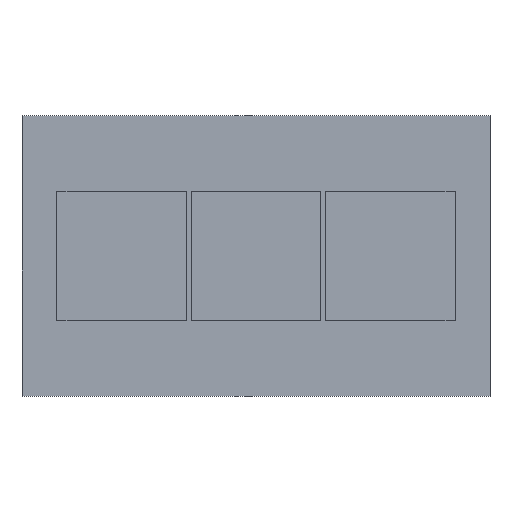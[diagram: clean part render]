
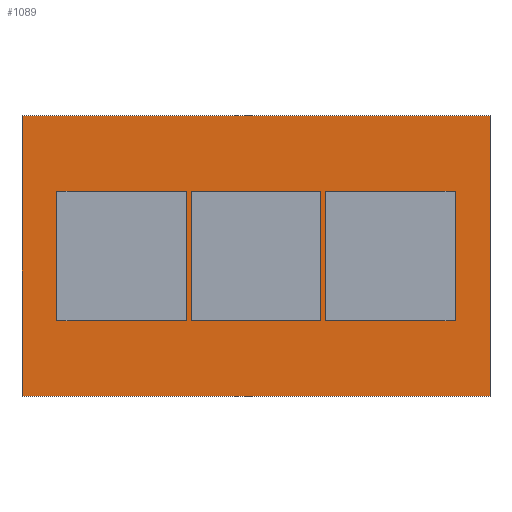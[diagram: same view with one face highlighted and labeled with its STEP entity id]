
A CAD part, top view. The second image highlights one B-rep face of the part: STEP entity #1089.
In plain terms, the highlighted planar face has unit normal (0, 0, 1).
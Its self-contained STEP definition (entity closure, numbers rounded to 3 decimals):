
#14 = VERTEX_POINT ( 'NONE', #994 ) ;
#19 = EDGE_CURVE ( 'NONE', #1437, #2033, #690, .T. ) ;
#68 = ORIENTED_EDGE ( 'NONE', *, *, #1532, .F. ) ;
#87 = VECTOR ( 'NONE', #1978, 1000. ) ;
#95 = DIRECTION ( 'NONE',  ( -1., 0., 0. ) ) ;
#108 = DIRECTION ( 'NONE',  ( 0., 1., 0. ) ) ;
#123 = CARTESIAN_POINT ( 'NONE',  ( 3.75, -2.25, 0. ) ) ;
#135 = CARTESIAN_POINT ( 'NONE',  ( -1.04, -1.04, 0. ) ) ;
#139 = ORIENTED_EDGE ( 'NONE', *, *, #451, .F. ) ;
#205 = VERTEX_POINT ( 'NONE', #1484 ) ;
#206 = EDGE_LOOP ( 'NONE', ( #654, #964, #1196, #1624 ) ) ;
#222 = EDGE_LOOP ( 'NONE', ( #814, #1893, #606, #1518 ) ) ;
#231 = VERTEX_POINT ( 'NONE', #1275 ) ;
#233 = LINE ( 'NONE', #123, #312 ) ;
#246 = CARTESIAN_POINT ( 'NONE',  ( -1.11, 1.04, 0. ) ) ;
#248 = CARTESIAN_POINT ( 'NONE',  ( -1.04, 1.04, 0. ) ) ;
#277 = CARTESIAN_POINT ( 'NONE',  ( 1.04, -1.04, 0. ) ) ;
#298 = VECTOR ( 'NONE', #1302, 1000. ) ;
#312 = VECTOR ( 'NONE', #1857, 1000. ) ;
#325 = LINE ( 'NONE', #1897, #87 ) ;
#360 = DIRECTION ( 'NONE',  ( 1., 0., 0. ) ) ;
#399 = LINE ( 'NONE', #1068, #1801 ) ;
#421 = CARTESIAN_POINT ( 'NONE',  ( 1.11, -1.04, 0. ) ) ;
#449 = VERTEX_POINT ( 'NONE', #1867 ) ;
#451 = EDGE_CURVE ( 'NONE', #1447, #957, #723, .T. ) ;
#487 = ORIENTED_EDGE ( 'NONE', *, *, #1609, .F. ) ;
#524 = DIRECTION ( 'NONE',  ( 0., -1., 0. ) ) ;
#537 = VECTOR ( 'NONE', #524, 1000. ) ;
#568 = FACE_BOUND ( 'NONE', #1765, .T. ) ;
#570 = VECTOR ( 'NONE', #648, 1000. ) ;
#573 = ORIENTED_EDGE ( 'NONE', *, *, #1852, .F. ) ;
#580 = CARTESIAN_POINT ( 'NONE',  ( 1.11, 1.04, 0. ) ) ;
#595 = LINE ( 'NONE', #904, #948 ) ;
#600 = LINE ( 'NONE', #1144, #298 ) ;
#606 = ORIENTED_EDGE ( 'NONE', *, *, #765, .F. ) ;
#609 = DIRECTION ( 'NONE',  ( 0., 1., 0. ) ) ;
#622 = PLANE ( 'NONE',  #1589 ) ;
#632 = CARTESIAN_POINT ( 'NONE',  ( 3.75, -2.25, 0. ) ) ;
#633 = VERTEX_POINT ( 'NONE', #1543 ) ;
#637 = CARTESIAN_POINT ( 'NONE',  ( -3.19, -1.04, 0. ) ) ;
#648 = DIRECTION ( 'NONE',  ( 0., -1., 0. ) ) ;
#654 = ORIENTED_EDGE ( 'NONE', *, *, #808, .F. ) ;
#690 = LINE ( 'NONE', #1312, #823 ) ;
#701 = VECTOR ( 'NONE', #747, 1000. ) ;
#703 = VERTEX_POINT ( 'NONE', #822 ) ;
#706 = CARTESIAN_POINT ( 'NONE',  ( -1.04, 1.04, 0. ) ) ;
#723 = LINE ( 'NONE', #1393, #1711 ) ;
#747 = DIRECTION ( 'NONE',  ( 1., 0., 0. ) ) ;
#765 = EDGE_CURVE ( 'NONE', #2033, #231, #1631, .T. ) ;
#779 = VECTOR ( 'NONE', #1058, 1000. ) ;
#796 = DIRECTION ( 'NONE',  ( -1., 0., 0. ) ) ;
#808 = EDGE_CURVE ( 'NONE', #926, #1593, #325, .T. ) ;
#812 = EDGE_CURVE ( 'NONE', #1132, #1437, #600, .T. ) ;
#814 = ORIENTED_EDGE ( 'NONE', *, *, #812, .F. ) ;
#822 = CARTESIAN_POINT ( 'NONE',  ( -1.11, -1.04, 0. ) ) ;
#823 = VECTOR ( 'NONE', #360, 1000. ) ;
#904 = CARTESIAN_POINT ( 'NONE',  ( -1.11, -1.04, 0. ) ) ;
#908 = DIRECTION ( 'NONE',  ( 0., 1., 0. ) ) ;
#910 = CARTESIAN_POINT ( 'NONE',  ( 1.11, -1.04, 0. ) ) ;
#926 = VERTEX_POINT ( 'NONE', #246 ) ;
#937 = CARTESIAN_POINT ( 'NONE',  ( 0., 0., 0. ) ) ;
#948 = VECTOR ( 'NONE', #108, 1000. ) ;
#957 = VERTEX_POINT ( 'NONE', #1222 ) ;
#963 = CARTESIAN_POINT ( 'NONE',  ( 3.75, 2.25, 0. ) ) ;
#964 = ORIENTED_EDGE ( 'NONE', *, *, #1002, .F. ) ;
#966 = LINE ( 'NONE', #1315, #537 ) ;
#977 = VERTEX_POINT ( 'NONE', #580 ) ;
#985 = EDGE_CURVE ( 'NONE', #633, #449, #1507, .T. ) ;
#994 = CARTESIAN_POINT ( 'NONE',  ( 1.04, 1.04, 0. ) ) ;
#996 = ORIENTED_EDGE ( 'NONE', *, *, #1551, .F. ) ;
#1002 = EDGE_CURVE ( 'NONE', #703, #926, #595, .T. ) ;
#1041 = FACE_BOUND ( 'NONE', #1301, .T. ) ;
#1058 = DIRECTION ( 'NONE',  ( 1., 0., 0. ) ) ;
#1060 = VECTOR ( 'NONE', #908, 1000. ) ;
#1068 = CARTESIAN_POINT ( 'NONE',  ( 3.19, -1.04, 0. ) ) ;
#1076 = CARTESIAN_POINT ( 'NONE',  ( -3.19, 1.04, 0. ) ) ;
#1089 = ADVANCED_FACE ( 'NONE', ( #1458, #568, #1635, #1041 ), #622, .T. ) ;
#1122 = EDGE_CURVE ( 'NONE', #1594, #977, #1430, .T. ) ;
#1130 = ORIENTED_EDGE ( 'NONE', *, *, #1122, .F. ) ;
#1132 = VERTEX_POINT ( 'NONE', #1743 ) ;
#1144 = CARTESIAN_POINT ( 'NONE',  ( -3.75, -2.25, 0. ) ) ;
#1156 = VECTOR ( 'NONE', #1690, 1000. ) ;
#1184 = LINE ( 'NONE', #706, #1974 ) ;
#1196 = ORIENTED_EDGE ( 'NONE', *, *, #1956, .F. ) ;
#1201 = LINE ( 'NONE', #910, #1156 ) ;
#1222 = CARTESIAN_POINT ( 'NONE',  ( -1.04, -1.04, 0. ) ) ;
#1228 = CARTESIAN_POINT ( 'NONE',  ( -3.19, -1.04, 0. ) ) ;
#1237 = CARTESIAN_POINT ( 'NONE',  ( 3.19, 1.04, 0. ) ) ;
#1253 = CARTESIAN_POINT ( 'NONE',  ( 1.11, 1.04, 0. ) ) ;
#1275 = CARTESIAN_POINT ( 'NONE',  ( 3.75, -2.25, 0. ) ) ;
#1283 = VECTOR ( 'NONE', #1398, 1000. ) ;
#1291 = EDGE_CURVE ( 'NONE', #1593, #1640, #966, .T. ) ;
#1301 = EDGE_LOOP ( 'NONE', ( #1130, #68, #1303, #573 ) ) ;
#1302 = DIRECTION ( 'NONE',  ( 0., 1., 0. ) ) ;
#1303 = ORIENTED_EDGE ( 'NONE', *, *, #985, .F. ) ;
#1312 = CARTESIAN_POINT ( 'NONE',  ( 3.75, 2.25, 0. ) ) ;
#1315 = CARTESIAN_POINT ( 'NONE',  ( -3.19, -1.04, 0. ) ) ;
#1327 = LINE ( 'NONE', #277, #1060 ) ;
#1380 = LINE ( 'NONE', #135, #701 ) ;
#1393 = CARTESIAN_POINT ( 'NONE',  ( -1.04, -1.04, 0. ) ) ;
#1396 = DIRECTION ( 'NONE',  ( 1., 0., 0. ) ) ;
#1398 = DIRECTION ( 'NONE',  ( 1., 0., 0. ) ) ;
#1420 = DIRECTION ( 'NONE',  ( 0., 0., 1. ) ) ;
#1430 = LINE ( 'NONE', #1253, #1754 ) ;
#1437 = VERTEX_POINT ( 'NONE', #1976 ) ;
#1447 = VERTEX_POINT ( 'NONE', #248 ) ;
#1458 = FACE_OUTER_BOUND ( 'NONE', #222, .T. ) ;
#1470 = EDGE_CURVE ( 'NONE', #14, #1447, #1184, .T. ) ;
#1484 = CARTESIAN_POINT ( 'NONE',  ( 1.04, -1.04, 0. ) ) ;
#1507 = LINE ( 'NONE', #421, #779 ) ;
#1518 = ORIENTED_EDGE ( 'NONE', *, *, #19, .F. ) ;
#1532 = EDGE_CURVE ( 'NONE', #449, #1594, #399, .T. ) ;
#1543 = CARTESIAN_POINT ( 'NONE',  ( 1.11, -1.04, 0. ) ) ;
#1551 = EDGE_CURVE ( 'NONE', #957, #205, #1380, .T. ) ;
#1559 = DIRECTION ( 'NONE',  ( 0., -1., 0. ) ) ;
#1589 = AXIS2_PLACEMENT_3D ( 'NONE', #937, #1420, #1396 ) ;
#1593 = VERTEX_POINT ( 'NONE', #1076 ) ;
#1594 = VERTEX_POINT ( 'NONE', #1237 ) ;
#1609 = EDGE_CURVE ( 'NONE', #205, #14, #1327, .T. ) ;
#1624 = ORIENTED_EDGE ( 'NONE', *, *, #1291, .F. ) ;
#1631 = LINE ( 'NONE', #632, #570 ) ;
#1635 = FACE_BOUND ( 'NONE', #206, .T. ) ;
#1640 = VERTEX_POINT ( 'NONE', #1228 ) ;
#1690 = DIRECTION ( 'NONE',  ( 0., -1., 0. ) ) ;
#1707 = ORIENTED_EDGE ( 'NONE', *, *, #1470, .F. ) ;
#1711 = VECTOR ( 'NONE', #1559, 1000. ) ;
#1743 = CARTESIAN_POINT ( 'NONE',  ( -3.75, -2.25, 0. ) ) ;
#1754 = VECTOR ( 'NONE', #796, 1000. ) ;
#1765 = EDGE_LOOP ( 'NONE', ( #487, #996, #139, #1707 ) ) ;
#1772 = LINE ( 'NONE', #637, #1283 ) ;
#1801 = VECTOR ( 'NONE', #609, 1000. ) ;
#1852 = EDGE_CURVE ( 'NONE', #977, #633, #1201, .T. ) ;
#1857 = DIRECTION ( 'NONE',  ( -1., 0., 0. ) ) ;
#1858 = EDGE_CURVE ( 'NONE', #231, #1132, #233, .T. ) ;
#1867 = CARTESIAN_POINT ( 'NONE',  ( 3.19, -1.04, 0. ) ) ;
#1893 = ORIENTED_EDGE ( 'NONE', *, *, #1858, .F. ) ;
#1897 = CARTESIAN_POINT ( 'NONE',  ( -3.19, 1.04, 0. ) ) ;
#1956 = EDGE_CURVE ( 'NONE', #1640, #703, #1772, .T. ) ;
#1974 = VECTOR ( 'NONE', #95, 1000. ) ;
#1976 = CARTESIAN_POINT ( 'NONE',  ( -3.75, 2.25, 0. ) ) ;
#1978 = DIRECTION ( 'NONE',  ( -1., 0., 0. ) ) ;
#2033 = VERTEX_POINT ( 'NONE', #963 ) ;
